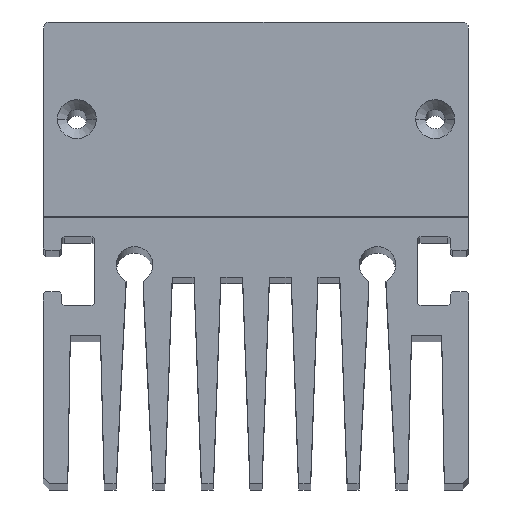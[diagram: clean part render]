
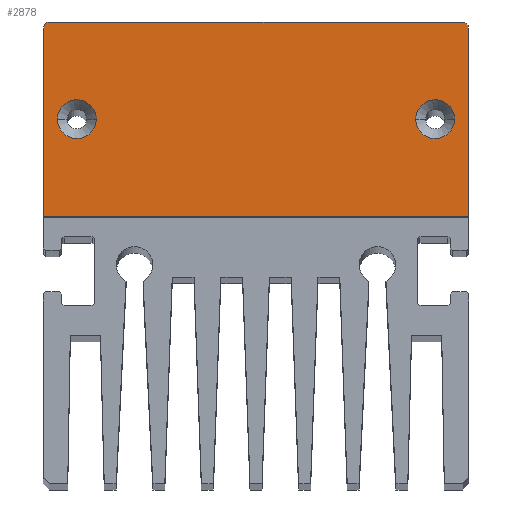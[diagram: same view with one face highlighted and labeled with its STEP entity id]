
A CAD part, top view. The second image highlights one B-rep face of the part: STEP entity #2878.
In plain terms, the highlighted planar face has unit normal (0, 0, 1).
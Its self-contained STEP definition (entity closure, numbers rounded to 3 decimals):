
#628=DIRECTION('',(1.,0.,0.));
#629=VECTOR('',#628,35.001);
#630=CARTESIAN_POINT('',(-17.5,2.8,152.));
#631=LINE('',#630,#629);
#632=CARTESIAN_POINT('',(-17.,18.3,152.));
#633=DIRECTION('',(0.,0.,1.));
#634=DIRECTION('',(0.,1.,0.));
#635=AXIS2_PLACEMENT_3D('',#632,#633,#634);
#637=CARTESIAN_POINT('',(17.497,18.3,152.));
#638=CARTESIAN_POINT('',(17.497,18.395,152.));
#639=CARTESIAN_POINT('',(17.449,18.558,152.));
#640=CARTESIAN_POINT('',(17.253,18.754,152.));
#641=CARTESIAN_POINT('',(17.092,18.8,152.));
#642=CARTESIAN_POINT('',(16.997,18.8,152.));
#644=CARTESIAN_POINT('',(14.75,10.8,152.));
#645=DIRECTION('',(0.,0.,-1.));
#646=DIRECTION('',(-1.,0.,0.));
#647=AXIS2_PLACEMENT_3D('',#644,#645,#646);
#649=CARTESIAN_POINT('',(14.75,10.8,152.));
#650=DIRECTION('',(0.,0.,-1.));
#651=DIRECTION('',(1.,0.,0.));
#652=AXIS2_PLACEMENT_3D('',#649,#650,#651);
#654=CARTESIAN_POINT('',(-14.75,10.8,152.));
#655=DIRECTION('',(0.,0.,-1.));
#656=DIRECTION('',(-1.,0.,0.));
#657=AXIS2_PLACEMENT_3D('',#654,#655,#656);
#659=CARTESIAN_POINT('',(-14.75,10.8,152.));
#660=DIRECTION('',(0.,0.,-1.));
#661=DIRECTION('',(1.,0.,0.));
#662=AXIS2_PLACEMENT_3D('',#659,#660,#661);
#704=DIRECTION('',(0.,-1.,0.));
#705=VECTOR('',#704,15.5);
#706=CARTESIAN_POINT('',(-17.5,18.3,152.));
#707=LINE('',#706,#705);
#1116=DIRECTION('',(0.,1.,0.));
#1117=VECTOR('',#1116,15.5);
#1118=CARTESIAN_POINT('',(17.501,2.8,152.));
#1119=LINE('',#1118,#1117);
#1664=DIRECTION('',(-1.,0.,0.));
#1665=VECTOR('',#1664,33.997);
#1666=CARTESIAN_POINT('',(16.997,18.8,152.));
#1667=LINE('',#1666,#1665);
#2262=CARTESIAN_POINT('',(-17.,18.8,152.));
#2263=CARTESIAN_POINT('',(-17.5,18.3,152.));
#2264=VERTEX_POINT('',#2262);
#2265=VERTEX_POINT('',#2263);
#2266=VERTEX_POINT('',#637);
#2267=VERTEX_POINT('',#642);
#2272=CARTESIAN_POINT('',(-17.5,2.8,152.));
#2273=CARTESIAN_POINT('',(17.501,2.8,152.));
#2274=VERTEX_POINT('',#2272);
#2275=VERTEX_POINT('',#2273);
#2414=CARTESIAN_POINT('',(13.15,10.8,152.));
#2415=CARTESIAN_POINT('',(16.35,10.8,152.));
#2416=VERTEX_POINT('',#2414);
#2417=VERTEX_POINT('',#2415);
#2422=CARTESIAN_POINT('',(-16.35,10.8,152.));
#2423=CARTESIAN_POINT('',(-13.15,10.8,152.));
#2424=VERTEX_POINT('',#2422);
#2425=VERTEX_POINT('',#2423);
#2848=CARTESIAN_POINT('',(0.,0.,152.));
#2849=DIRECTION('',(0.,0.,1.));
#2850=DIRECTION('',(1.,0.,0.));
#2851=AXIS2_PLACEMENT_3D('',#2848,#2849,#2850);
#2852=PLANE('',#2851);
#2854=ORIENTED_EDGE('',*,*,#2853,.F.);
#2856=ORIENTED_EDGE('',*,*,#2855,.F.);
#2858=ORIENTED_EDGE('',*,*,#2857,.F.);
#2860=ORIENTED_EDGE('',*,*,#2859,.F.);
#2862=ORIENTED_EDGE('',*,*,#2861,.F.);
#2864=ORIENTED_EDGE('',*,*,#2863,.F.);
#2865=EDGE_LOOP('',(#2854,#2856,#2858,#2860,#2862,#2864));
#2866=FACE_OUTER_BOUND('',#2865,.F.);
#2868=ORIENTED_EDGE('',*,*,#2867,.F.);
#2870=ORIENTED_EDGE('',*,*,#2869,.F.);
#2871=EDGE_LOOP('',(#2868,#2870));
#2872=FACE_BOUND('',#2871,.F.);
#2873=ORIENTED_EDGE('',*,*,#2690,.F.);
#2875=ORIENTED_EDGE('',*,*,#2874,.F.);
#2876=EDGE_LOOP('',(#2873,#2875));
#2877=FACE_BOUND('',#2876,.F.);
#636=CIRCLE('',#635,0.5);
#643=B_SPLINE_CURVE_WITH_KNOTS('',3,(#637,#638,#639,#640,#641,#642),
.UNSPECIFIED.,.F.,.F.,(4,1,1,4),(0.,0.333,0.667,1.),
.UNSPECIFIED.);
#648=CIRCLE('',#647,1.6);
#653=CIRCLE('',#652,1.6);
#658=CIRCLE('',#657,1.6);
#663=CIRCLE('',#662,1.6);
#2690=EDGE_CURVE('',#2424,#2425,#658,.T.);
#2853=EDGE_CURVE('',#2274,#2275,#631,.T.);
#2855=EDGE_CURVE('',#2265,#2274,#707,.T.);
#2857=EDGE_CURVE('',#2264,#2265,#636,.T.);
#2859=EDGE_CURVE('',#2267,#2264,#1667,.T.);
#2861=EDGE_CURVE('',#2266,#2267,#643,.T.);
#2863=EDGE_CURVE('',#2275,#2266,#1119,.T.);
#2867=EDGE_CURVE('',#2416,#2417,#648,.T.);
#2869=EDGE_CURVE('',#2417,#2416,#653,.T.);
#2874=EDGE_CURVE('',#2425,#2424,#663,.T.);
#2878=ADVANCED_FACE('',(#2866,#2872,#2877),#2852,.T.);
